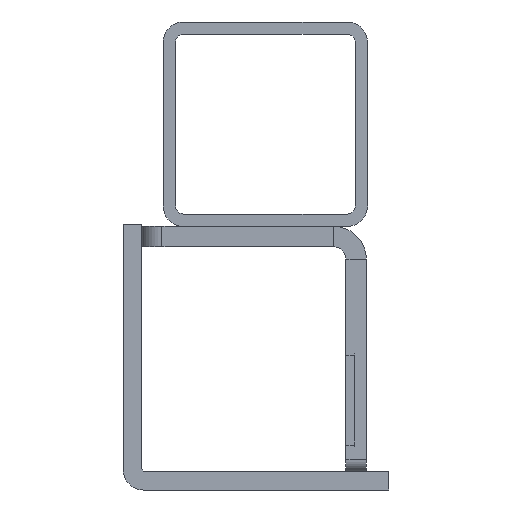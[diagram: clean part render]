
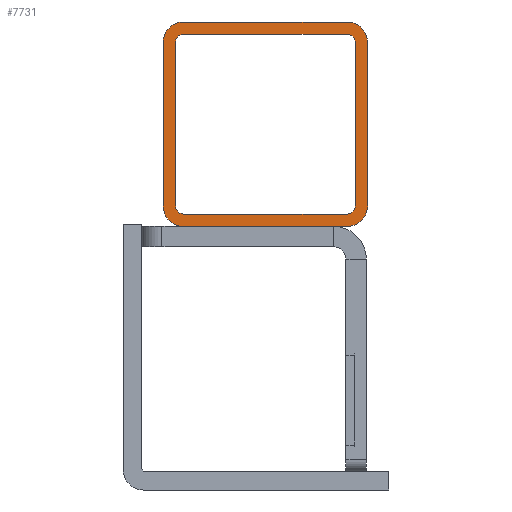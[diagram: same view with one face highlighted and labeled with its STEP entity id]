
A CAD part, left-side view. The second image highlights one B-rep face of the part: STEP entity #7731.
In plain terms, the highlighted planar face has unit normal (-1, 0, 0) as drawn and (0, 1, 0) by its records, which use the part's own axes.
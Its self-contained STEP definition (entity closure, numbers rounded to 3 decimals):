
#123 = ORIENTED_EDGE ( 'NONE', *, *, #3950, .F. ) ;
#125 = CARTESIAN_POINT ( 'NONE',  ( 45., 1650., -3. ) ) ;
#191 = CIRCLE ( 'NONE', #4349, 2. ) ;
#200 = EDGE_CURVE ( 'NONE', #5182, #7934, #2973, .T. ) ;
#231 = VERTEX_POINT ( 'NONE', #4423 ) ;
#295 = CARTESIAN_POINT ( 'NONE',  ( 47., 1650., -5. ) ) ;
#371 = FACE_OUTER_BOUND ( 'NONE', #7043, .T. ) ;
#381 = CARTESIAN_POINT ( 'NONE',  ( 50., 1650., -5. ) ) ;
#475 = DIRECTION ( 'NONE',  ( 0., -1., 0. ) ) ;
#561 = CIRCLE ( 'NONE', #2094, 2. ) ;
#592 = LINE ( 'NONE', #2353, #3608 ) ;
#700 = DIRECTION ( 'NONE',  ( 0., -1., 0. ) ) ;
#710 = VERTEX_POINT ( 'NONE', #4268 ) ;
#727 = CARTESIAN_POINT ( 'NONE',  ( 5., 1650., -45. ) ) ;
#750 = ORIENTED_EDGE ( 'NONE', *, *, #200, .T. ) ;
#778 = EDGE_CURVE ( 'NONE', #7934, #7437, #4472, .T. ) ;
#828 = DIRECTION ( 'NONE',  ( 0., -1., 0. ) ) ;
#840 = CARTESIAN_POINT ( 'NONE',  ( 45., 1650., -50. ) ) ;
#941 = CARTESIAN_POINT ( 'NONE',  ( 0., 1650., -45. ) ) ;
#989 = EDGE_CURVE ( 'NONE', #5907, #2877, #1595, .T. ) ;
#1088 = CIRCLE ( 'NONE', #1243, 5. ) ;
#1170 = AXIS2_PLACEMENT_3D ( 'NONE', #3019, #3604, #7862 ) ;
#1178 = VECTOR ( 'NONE', #2228, 1000. ) ;
#1183 = VECTOR ( 'NONE', #7986, 1000. ) ;
#1243 = AXIS2_PLACEMENT_3D ( 'NONE', #5286, #6517, #2847 ) ;
#1303 = LINE ( 'NONE', #8060, #1422 ) ;
#1422 = VECTOR ( 'NONE', #1782, 1000. ) ;
#1519 = CARTESIAN_POINT ( 'NONE',  ( 5., 1650., -50. ) ) ;
#1530 = EDGE_CURVE ( 'NONE', #2877, #3484, #5617, .T. ) ;
#1548 = EDGE_CURVE ( 'NONE', #2509, #5356, #592, .T. ) ;
#1595 = CIRCLE ( 'NONE', #7889, 5. ) ;
#1628 = CARTESIAN_POINT ( 'NONE',  ( 3., 1650., -5. ) ) ;
#1707 = CARTESIAN_POINT ( 'NONE',  ( 45., 1650., -47. ) ) ;
#1748 = EDGE_CURVE ( 'NONE', #7437, #231, #191, .T. ) ;
#1782 = DIRECTION ( 'NONE',  ( 0., 0., -1. ) ) ;
#1795 = DIRECTION ( 'NONE',  ( 1., 0., 0. ) ) ;
#1802 = CARTESIAN_POINT ( 'NONE',  ( 5., 1650., -3. ) ) ;
#1821 = ORIENTED_EDGE ( 'NONE', *, *, #1548, .T. ) ;
#1910 = VERTEX_POINT ( 'NONE', #125 ) ;
#1960 = DIRECTION ( 'NONE',  ( -1., 0., 0. ) ) ;
#2012 = CARTESIAN_POINT ( 'NONE',  ( 0., 1650., -5. ) ) ;
#2028 = DIRECTION ( 'NONE',  ( -1., 0., 0. ) ) ;
#2033 = EDGE_CURVE ( 'NONE', #2841, #5907, #4456, .T. ) ;
#2039 = CARTESIAN_POINT ( 'NONE',  ( 3., 1650., -45. ) ) ;
#2052 = DIRECTION ( 'NONE',  ( 0., 1., 0. ) ) ;
#2058 = VERTEX_POINT ( 'NONE', #295 ) ;
#2094 = AXIS2_PLACEMENT_3D ( 'NONE', #5064, #2052, #1960 ) ;
#2152 = CIRCLE ( 'NONE', #3677, 5. ) ;
#2172 = CARTESIAN_POINT ( 'NONE',  ( 0., 1650., -5. ) ) ;
#2183 = ORIENTED_EDGE ( 'NONE', *, *, #7289, .F. ) ;
#2228 = DIRECTION ( 'NONE',  ( 0., 0., -1. ) ) ;
#2255 = DIRECTION ( 'NONE',  ( 0., -1., 0. ) ) ;
#2353 = CARTESIAN_POINT ( 'NONE',  ( 5., 1650., 0. ) ) ;
#2458 = CARTESIAN_POINT ( 'NONE',  ( 5., 1650., -50. ) ) ;
#2477 = VECTOR ( 'NONE', #6624, 1000. ) ;
#2509 = VERTEX_POINT ( 'NONE', #6510 ) ;
#2530 = CARTESIAN_POINT ( 'NONE',  ( 45., 1650., -5. ) ) ;
#2540 = ORIENTED_EDGE ( 'NONE', *, *, #989, .F. ) ;
#2566 = LINE ( 'NONE', #1802, #7201 ) ;
#2639 = AXIS2_PLACEMENT_3D ( 'NONE', #5217, #828, #3982 ) ;
#2841 = VERTEX_POINT ( 'NONE', #2012 ) ;
#2845 = ORIENTED_EDGE ( 'NONE', *, *, #4817, .T. ) ;
#2847 = DIRECTION ( 'NONE',  ( 0., 0., -1. ) ) ;
#2877 = VERTEX_POINT ( 'NONE', #1519 ) ;
#2973 = CIRCLE ( 'NONE', #1170, 2. ) ;
#3019 = CARTESIAN_POINT ( 'NONE',  ( 5., 1650., -45. ) ) ;
#3041 = LINE ( 'NONE', #381, #1183 ) ;
#3186 = EDGE_CURVE ( 'NONE', #5356, #6667, #2152, .T. ) ;
#3271 = DIRECTION ( 'NONE',  ( 0., 0., -1. ) ) ;
#3456 = ORIENTED_EDGE ( 'NONE', *, *, #2033, .F. ) ;
#3484 = VERTEX_POINT ( 'NONE', #840 ) ;
#3604 = DIRECTION ( 'NONE',  ( 0., -1., 0. ) ) ;
#3608 = VECTOR ( 'NONE', #1795, 1000. ) ;
#3665 = DIRECTION ( 'NONE',  ( 1., 0., 0. ) ) ;
#3677 = AXIS2_PLACEMENT_3D ( 'NONE', #2530, #4902, #4373 ) ;
#3950 = EDGE_CURVE ( 'NONE', #1910, #2058, #561, .T. ) ;
#3982 = DIRECTION ( 'NONE',  ( 0., 0., -1. ) ) ;
#3989 = DIRECTION ( 'NONE',  ( 0., -1., 0. ) ) ;
#4107 = AXIS2_PLACEMENT_3D ( 'NONE', #4210, #475, #5008 ) ;
#4189 = DIRECTION ( 'NONE',  ( 0., 0., -1. ) ) ;
#4210 = CARTESIAN_POINT ( 'NONE',  ( 5., 1650., -5. ) ) ;
#4268 = CARTESIAN_POINT ( 'NONE',  ( 5., 1650., -3. ) ) ;
#4349 = AXIS2_PLACEMENT_3D ( 'NONE', #7589, #3989, #2028 ) ;
#4371 = VERTEX_POINT ( 'NONE', #1628 ) ;
#4373 = DIRECTION ( 'NONE',  ( 0., 0., 1. ) ) ;
#4423 = CARTESIAN_POINT ( 'NONE',  ( 47., 1650., -45. ) ) ;
#4456 = LINE ( 'NONE', #2172, #1178 ) ;
#4472 = LINE ( 'NONE', #7286, #2477 ) ;
#4491 = VERTEX_POINT ( 'NONE', #7958 ) ;
#4510 = EDGE_CURVE ( 'NONE', #4371, #5182, #1303, .T. ) ;
#4538 = LINE ( 'NONE', #7351, #6467 ) ;
#4625 = ORIENTED_EDGE ( 'NONE', *, *, #3186, .T. ) ;
#4661 = CARTESIAN_POINT ( 'NONE',  ( 50., 1650., -5. ) ) ;
#4692 = PLANE ( 'NONE',  #7346 ) ;
#4817 = EDGE_CURVE ( 'NONE', #710, #4371, #5854, .T. ) ;
#4902 = DIRECTION ( 'NONE',  ( 0., 1., 0. ) ) ;
#5008 = DIRECTION ( 'NONE',  ( -1., 0., 0. ) ) ;
#5064 = CARTESIAN_POINT ( 'NONE',  ( 45., 1650., -5. ) ) ;
#5182 = VERTEX_POINT ( 'NONE', #2039 ) ;
#5217 = CARTESIAN_POINT ( 'NONE',  ( 5., 1650., -5. ) ) ;
#5286 = CARTESIAN_POINT ( 'NONE',  ( 45., 1650., -45. ) ) ;
#5323 = CARTESIAN_POINT ( 'NONE',  ( 5., 1650., -5. ) ) ;
#5356 = VERTEX_POINT ( 'NONE', #7429 ) ;
#5425 = FACE_BOUND ( 'NONE', #7864, .T. ) ;
#5496 = CARTESIAN_POINT ( 'NONE',  ( 5., 1650., -47. ) ) ;
#5617 = LINE ( 'NONE', #2458, #6705 ) ;
#5785 = ORIENTED_EDGE ( 'NONE', *, *, #6766, .F. ) ;
#5854 = CIRCLE ( 'NONE', #4107, 2. ) ;
#5907 = VERTEX_POINT ( 'NONE', #941 ) ;
#6140 = EDGE_CURVE ( 'NONE', #710, #1910, #2566, .T. ) ;
#6162 = ORIENTED_EDGE ( 'NONE', *, *, #6140, .F. ) ;
#6335 = ORIENTED_EDGE ( 'NONE', *, *, #1748, .T. ) ;
#6410 = ORIENTED_EDGE ( 'NONE', *, *, #4510, .T. ) ;
#6423 = EDGE_CURVE ( 'NONE', #6667, #4491, #3041, .T. ) ;
#6467 = VECTOR ( 'NONE', #4189, 1000. ) ;
#6510 = CARTESIAN_POINT ( 'NONE',  ( 5., 1650., 0. ) ) ;
#6517 = DIRECTION ( 'NONE',  ( 0., -1., 0. ) ) ;
#6557 = DIRECTION ( 'NONE',  ( 0., 0., -1. ) ) ;
#6624 = DIRECTION ( 'NONE',  ( 1., 0., 0. ) ) ;
#6667 = VERTEX_POINT ( 'NONE', #4661 ) ;
#6705 = VECTOR ( 'NONE', #7420, 1000. ) ;
#6712 = ORIENTED_EDGE ( 'NONE', *, *, #1530, .F. ) ;
#6766 = EDGE_CURVE ( 'NONE', #3484, #4491, #1088, .T. ) ;
#6787 = CIRCLE ( 'NONE', #2639, 5. ) ;
#7043 = EDGE_LOOP ( 'NONE', ( #2183, #1821, #4625, #7478, #5785, #6712, #2540, #3456 ) ) ;
#7201 = VECTOR ( 'NONE', #3665, 1000. ) ;
#7249 = ORIENTED_EDGE ( 'NONE', *, *, #7768, .F. ) ;
#7286 = CARTESIAN_POINT ( 'NONE',  ( 5., 1650., -47. ) ) ;
#7289 = EDGE_CURVE ( 'NONE', #2509, #2841, #6787, .T. ) ;
#7346 = AXIS2_PLACEMENT_3D ( 'NONE', #5323, #2255, #6557 ) ;
#7351 = CARTESIAN_POINT ( 'NONE',  ( 47., 1650., -5. ) ) ;
#7420 = DIRECTION ( 'NONE',  ( 1., 0., 0. ) ) ;
#7429 = CARTESIAN_POINT ( 'NONE',  ( 45., 1650., 0. ) ) ;
#7437 = VERTEX_POINT ( 'NONE', #1707 ) ;
#7478 = ORIENTED_EDGE ( 'NONE', *, *, #6423, .T. ) ;
#7589 = CARTESIAN_POINT ( 'NONE',  ( 45., 1650., -45. ) ) ;
#7731 = ADVANCED_FACE ( 'NONE', ( #5425, #371 ), #4692, .F. ) ;
#7768 = EDGE_CURVE ( 'NONE', #2058, #231, #4538, .T. ) ;
#7862 = DIRECTION ( 'NONE',  ( -1., 0., 0. ) ) ;
#7864 = EDGE_LOOP ( 'NONE', ( #6162, #2845, #6410, #750, #8031, #6335, #7249, #123 ) ) ;
#7889 = AXIS2_PLACEMENT_3D ( 'NONE', #727, #700, #3271 ) ;
#7934 = VERTEX_POINT ( 'NONE', #5496 ) ;
#7958 = CARTESIAN_POINT ( 'NONE',  ( 50., 1650., -45. ) ) ;
#7986 = DIRECTION ( 'NONE',  ( 0., 0., -1. ) ) ;
#8031 = ORIENTED_EDGE ( 'NONE', *, *, #778, .T. ) ;
#8060 = CARTESIAN_POINT ( 'NONE',  ( 3., 1650., -5. ) ) ;
